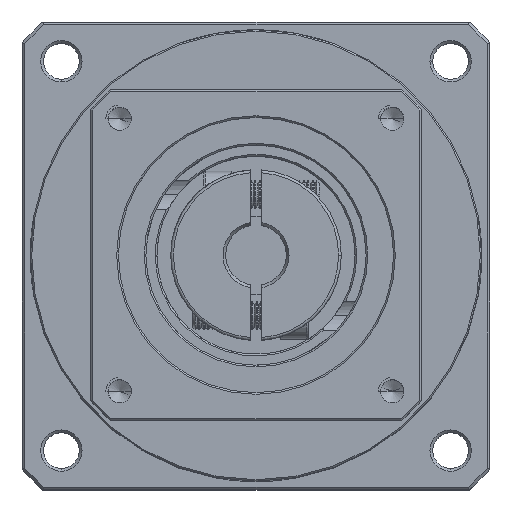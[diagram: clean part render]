
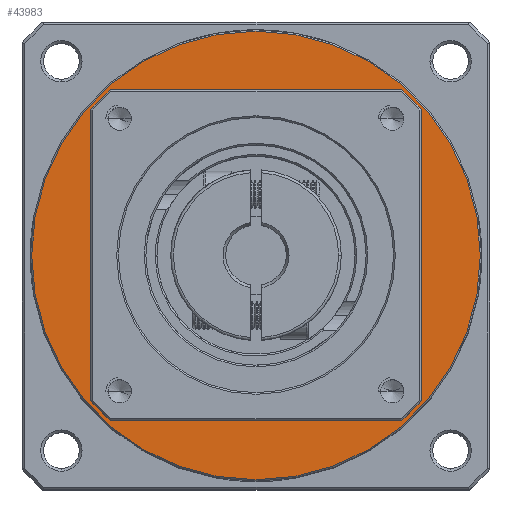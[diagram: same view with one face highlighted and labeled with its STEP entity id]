
A CAD part, top view. The second image highlights one B-rep face of the part: STEP entity #43983.
In plain terms, the highlighted planar face has unit normal (0, 0, 1).
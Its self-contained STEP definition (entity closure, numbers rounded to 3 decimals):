
#841 = DIRECTION ( 'NONE',  ( 0., 0., -1. ) ) ;
#5288 = CIRCLE ( 'NONE', #31314, 30. ) ;
#9557 = DIRECTION ( 'NONE',  ( 0., 0., -1. ) ) ;
#10363 = AXIS2_PLACEMENT_3D ( 'NONE', #34697, #95813, #43511 ) ;
#11211 = EDGE_CURVE ( 'NONE', #108718, #74808, #88371, .T. ) ;
#11666 = CARTESIAN_POINT ( 'NONE',  ( -33.871, 20.584, -29.394 ) ) ;
#24075 = CARTESIAN_POINT ( 'NONE',  ( -63.871, 20.584, -29.394 ) ) ;
#31314 = AXIS2_PLACEMENT_3D ( 'NONE', #61958, #9557, #70671 ) ;
#32903 = DIRECTION ( 'NONE',  ( 1., 0., 0. ) ) ;
#33099 = CARTESIAN_POINT ( 'NONE',  ( -63.871, 61.334, -29.394 ) ) ;
#34697 = CARTESIAN_POINT ( 'NONE',  ( -63.871, 20.584, -29.394 ) ) ;
#39578 = DIRECTION ( 'NONE',  ( 0., 0., -1. ) ) ;
#41180 = CARTESIAN_POINT ( 'NONE',  ( -93.871, 20.584, -29.394 ) ) ;
#43511 = DIRECTION ( 'NONE',  ( 0., 1., 0. ) ) ;
#43983 = ADVANCED_FACE ( 'NONE', ( #83292, #60134 ), #102392, .T. ) ;
#44243 = ORIENTED_EDGE ( 'NONE', *, *, #106744, .F. ) ;
#47977 = CARTESIAN_POINT ( 'NONE',  ( -63.871, -20.166, -29.394 ) ) ;
#53250 = CARTESIAN_POINT ( 'NONE',  ( -63.871, 20.584, -29.394 ) ) ;
#56353 = ORIENTED_EDGE ( 'NONE', *, *, #107879, .T. ) ;
#60134 = FACE_BOUND ( 'NONE', #62468, .T. ) ;
#61958 = CARTESIAN_POINT ( 'NONE',  ( -63.871, 20.584, -29.394 ) ) ;
#62064 = DIRECTION ( 'NONE',  ( -1., 0., 0. ) ) ;
#62468 = EDGE_LOOP ( 'NONE', ( #56353, #72943 ) ) ;
#66479 = ORIENTED_EDGE ( 'NONE', *, *, #11211, .F. ) ;
#70671 = DIRECTION ( 'NONE',  ( -1., 0., 0. ) ) ;
#71660 = AXIS2_PLACEMENT_3D ( 'NONE', #24075, #85227, #32903 ) ;
#72943 = ORIENTED_EDGE ( 'NONE', *, *, #86257, .T. ) ;
#74808 = VERTEX_POINT ( 'NONE', #33099 ) ;
#77757 = AXIS2_PLACEMENT_3D ( 'NONE', #90316, #39578, #100621 ) ;
#81126 = CIRCLE ( 'NONE', #85746, 30. ) ;
#83292 = FACE_OUTER_BOUND ( 'NONE', #112129, .T. ) ;
#84403 = VERTEX_POINT ( 'NONE', #41180 ) ;
#85227 = DIRECTION ( 'NONE',  ( 0., 0., 1. ) ) ;
#85746 = AXIS2_PLACEMENT_3D ( 'NONE', #53250, #841, #62064 ) ;
#86257 = EDGE_CURVE ( 'NONE', #96918, #84403, #81126, .T. ) ;
#88371 = CIRCLE ( 'NONE', #10363, 40.75 ) ;
#90316 = CARTESIAN_POINT ( 'NONE',  ( -63.871, 20.584, -29.394 ) ) ;
#95813 = DIRECTION ( 'NONE',  ( 0., 0., -1. ) ) ;
#96918 = VERTEX_POINT ( 'NONE', #11666 ) ;
#99988 = CIRCLE ( 'NONE', #77757, 40.75 ) ;
#100621 = DIRECTION ( 'NONE',  ( 0., 1., 0. ) ) ;
#102392 = PLANE ( 'NONE',  #71660 ) ;
#106744 = EDGE_CURVE ( 'NONE', #74808, #108718, #99988, .T. ) ;
#107879 = EDGE_CURVE ( 'NONE', #84403, #96918, #5288, .T. ) ;
#108718 = VERTEX_POINT ( 'NONE', #47977 ) ;
#112129 = EDGE_LOOP ( 'NONE', ( #44243, #66479 ) ) ;
